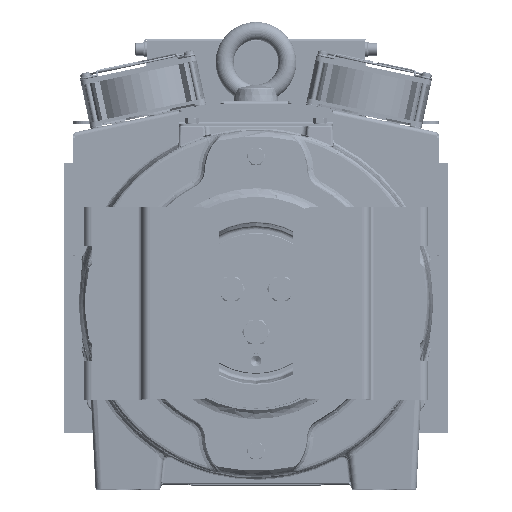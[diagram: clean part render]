
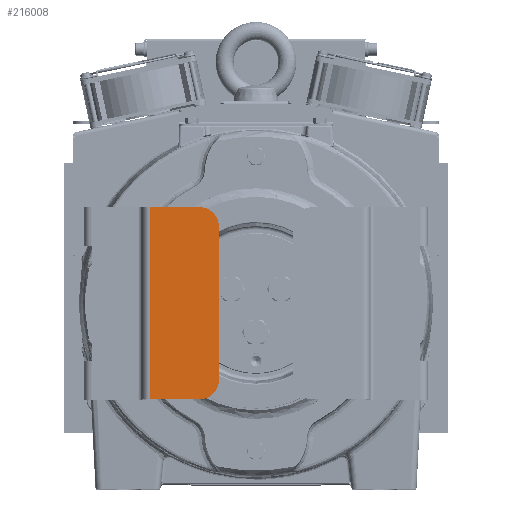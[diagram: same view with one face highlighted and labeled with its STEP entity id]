
A CAD part, top view. The second image highlights one B-rep face of the part: STEP entity #216008.
In plain terms, the highlighted planar face has unit normal (0, 0, 1) as drawn and (0, 1, 0) by its records, which use the part's own axes.
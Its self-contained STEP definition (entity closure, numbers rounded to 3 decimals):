
#215077=CARTESIAN_POINT('',(135.,65.,-45.));
#215078=DIRECTION('',(0.,-1.,0.));
#215079=DIRECTION('',(0.,0.,-1.));
#215080=AXIS2_PLACEMENT_3D('',#215077,#215078,#215079);
#215082=DIRECTION('',(0.,0.,-1.));
#215083=VECTOR('',#215082,39.);
#215084=CARTESIAN_POINT('',(0.,65.,-6.));
#215085=LINE('',#215084,#215083);
#215086=CARTESIAN_POINT('',(15.,65.,-45.));
#215087=DIRECTION('',(0.,-1.,0.));
#215088=DIRECTION('',(-1.,0.,0.));
#215089=AXIS2_PLACEMENT_3D('',#215086,#215087,#215088);
#215099=DIRECTION('',(-1.,0.,0.));
#215100=VECTOR('',#215099,120.);
#215101=CARTESIAN_POINT('',(135.,65.,-60.));
#215102=LINE('',#215101,#215100);
#215133=DIRECTION('',(1.,0.,0.));
#215134=VECTOR('',#215133,150.);
#215135=CARTESIAN_POINT('',(0.,65.,-6.));
#215136=LINE('',#215135,#215134);
#215293=DIRECTION('',(0.,0.,-1.));
#215294=VECTOR('',#215293,39.);
#215295=CARTESIAN_POINT('',(150.,65.,-6.));
#215296=LINE('',#215295,#215294);
#215797=CARTESIAN_POINT('',(135.,65.,-60.));
#215798=CARTESIAN_POINT('',(150.,65.,-45.));
#215799=VERTEX_POINT('',#215797);
#215800=VERTEX_POINT('',#215798);
#215801=CARTESIAN_POINT('',(150.,65.,-6.));
#215802=VERTEX_POINT('',#215801);
#215803=CARTESIAN_POINT('',(0.,65.,-6.));
#215804=VERTEX_POINT('',#215803);
#215805=CARTESIAN_POINT('',(0.,65.,-45.));
#215806=VERTEX_POINT('',#215805);
#215807=CARTESIAN_POINT('',(15.,65.,-60.));
#215808=VERTEX_POINT('',#215807);
#215989=CARTESIAN_POINT('',(0.,65.,-60.));
#215990=DIRECTION('',(0.,1.,0.));
#215991=DIRECTION('',(0.,0.,1.));
#215992=AXIS2_PLACEMENT_3D('',#215989,#215990,#215991);
#215993=PLANE('',#215992);
#215995=ORIENTED_EDGE('',*,*,#215994,.T.);
#215997=ORIENTED_EDGE('',*,*,#215996,.F.);
#215999=ORIENTED_EDGE('',*,*,#215998,.F.);
#216001=ORIENTED_EDGE('',*,*,#216000,.T.);
#216003=ORIENTED_EDGE('',*,*,#216002,.T.);
#216005=ORIENTED_EDGE('',*,*,#216004,.F.);
#216006=EDGE_LOOP('',(#215995,#215997,#215999,#216001,#216003,#216005));
#216007=FACE_OUTER_BOUND('',#216006,.F.);
#216008=ADVANCED_FACE('',(#216007),#215993,.T.);
#215081=CIRCLE('',#215080,15.);
#215090=CIRCLE('',#215089,15.);
#215994=EDGE_CURVE('',#215799,#215800,#215081,.T.);
#215996=EDGE_CURVE('',#215802,#215800,#215296,.T.);
#215998=EDGE_CURVE('',#215804,#215802,#215136,.T.);
#216000=EDGE_CURVE('',#215804,#215806,#215085,.T.);
#216002=EDGE_CURVE('',#215806,#215808,#215090,.T.);
#216004=EDGE_CURVE('',#215799,#215808,#215102,.T.);
